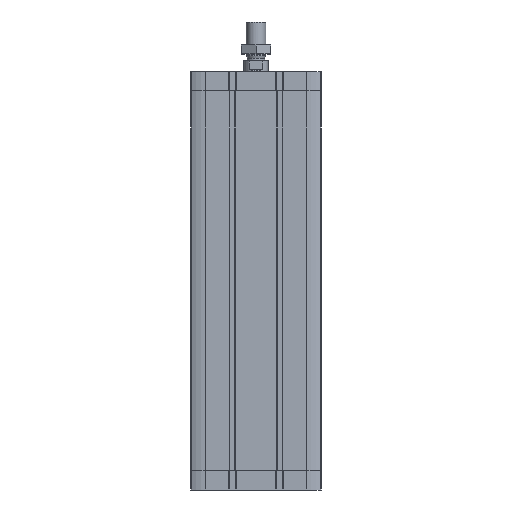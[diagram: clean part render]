
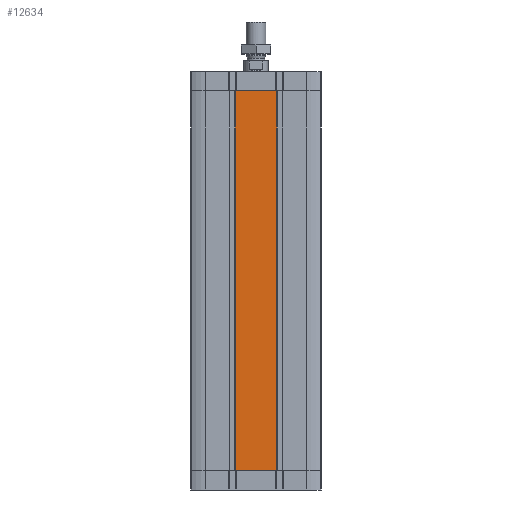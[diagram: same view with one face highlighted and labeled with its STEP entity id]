
A CAD part, front view. The second image highlights one B-rep face of the part: STEP entity #12634.
In plain terms, the highlighted planar face has unit normal (0, -1, 0).
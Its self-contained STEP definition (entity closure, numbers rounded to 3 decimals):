
#28 = DIRECTION ( 'NONE',  ( 1., 0., 0. ) ) ;
#89 = CARTESIAN_POINT ( 'NONE',  ( -67., -67., -411. ) ) ;
#270 = LINE ( 'NONE', #89, #12477 ) ;
#917 = CARTESIAN_POINT ( 'NONE',  ( 21.3, -67., -411. ) ) ;
#1079 = LINE ( 'NONE', #14929, #2745 ) ;
#1700 = ORIENTED_EDGE ( 'NONE', *, *, #9967, .F. ) ;
#1768 = CARTESIAN_POINT ( 'NONE',  ( -20.687, -67., -20. ) ) ;
#2175 = CARTESIAN_POINT ( 'NONE',  ( -21.3, -67., -411. ) ) ;
#2745 = VECTOR ( 'NONE', #13731, 1000. ) ;
#2828 = CARTESIAN_POINT ( 'NONE',  ( -67., -67., -20. ) ) ;
#3000 = VECTOR ( 'NONE', #16751, 1000. ) ;
#3176 = CARTESIAN_POINT ( 'NONE',  ( 20.687, -67., -411. ) ) ;
#3857 = VERTEX_POINT ( 'NONE', #3176 ) ;
#4173 = VECTOR ( 'NONE', #6390, 1000. ) ;
#4177 = VERTEX_POINT ( 'NONE', #1768 ) ;
#4486 = AXIS2_PLACEMENT_3D ( 'NONE', #15542, #14175, #18109 ) ;
#4556 = ORIENTED_EDGE ( 'NONE', *, *, #17231, .T. ) ;
#4649 = CARTESIAN_POINT ( 'NONE',  ( -67., -67., -20. ) ) ;
#4786 = LINE ( 'NONE', #917, #14741 ) ;
#4801 = VERTEX_POINT ( 'NONE', #14944 ) ;
#4873 = ORIENTED_EDGE ( 'NONE', *, *, #8738, .F. ) ;
#4933 = VERTEX_POINT ( 'NONE', #17972 ) ;
#5474 = EDGE_CURVE ( 'NONE', #17806, #15772, #17299, .T. ) ;
#5606 = LINE ( 'NONE', #2175, #4173 ) ;
#6390 = DIRECTION ( 'NONE',  ( 1., 0., 0. ) ) ;
#6516 = DIRECTION ( 'NONE',  ( 0., 0., 1. ) ) ;
#6936 = PLANE ( 'NONE',  #4486 ) ;
#7297 = CARTESIAN_POINT ( 'NONE',  ( 21.3, -67., -20. ) ) ;
#7648 = VERTEX_POINT ( 'NONE', #17753 ) ;
#7970 = ORIENTED_EDGE ( 'NONE', *, *, #12239, .F. ) ;
#8417 = ORIENTED_EDGE ( 'NONE', *, *, #9666, .T. ) ;
#8586 = LINE ( 'NONE', #12800, #13536 ) ;
#8718 = DIRECTION ( 'NONE',  ( 1., 0., 0. ) ) ;
#8738 = EDGE_CURVE ( 'NONE', #4933, #12915, #1079, .T. ) ;
#9666 = EDGE_CURVE ( 'NONE', #4933, #7648, #270, .T. ) ;
#9823 = ORIENTED_EDGE ( 'NONE', *, *, #17487, .T. ) ;
#9897 = LINE ( 'NONE', #10177, #3000 ) ;
#9967 = EDGE_CURVE ( 'NONE', #12915, #4177, #12743, .T. ) ;
#10177 = CARTESIAN_POINT ( 'NONE',  ( -21.3, -67., -20. ) ) ;
#10387 = ORIENTED_EDGE ( 'NONE', *, *, #11580, .T. ) ;
#10602 = ORIENTED_EDGE ( 'NONE', *, *, #5474, .F. ) ;
#11580 = EDGE_CURVE ( 'NONE', #3857, #4801, #8586, .T. ) ;
#12239 = EDGE_CURVE ( 'NONE', #4177, #17806, #9897, .T. ) ;
#12477 = VECTOR ( 'NONE', #15703, 1000. ) ;
#12634 = ADVANCED_FACE ( 'NONE', ( #13902 ), #6936, .T. ) ;
#12743 = LINE ( 'NONE', #2828, #14541 ) ;
#12800 = CARTESIAN_POINT ( 'NONE',  ( -67., -67., -411. ) ) ;
#12915 = VERTEX_POINT ( 'NONE', #16190 ) ;
#13106 = EDGE_LOOP ( 'NONE', ( #4873, #8417, #4556, #10387, #9823, #10602, #7970, #1700 ) ) ;
#13536 = VECTOR ( 'NONE', #28, 1000. ) ;
#13731 = DIRECTION ( 'NONE',  ( 0., 0., 1. ) ) ;
#13902 = FACE_OUTER_BOUND ( 'NONE', #13106, .T. ) ;
#14175 = DIRECTION ( 'NONE',  ( 0., -1., 0. ) ) ;
#14541 = VECTOR ( 'NONE', #8718, 1000. ) ;
#14741 = VECTOR ( 'NONE', #6516, 1000. ) ;
#14929 = CARTESIAN_POINT ( 'NONE',  ( -21.3, -67., -411. ) ) ;
#14944 = CARTESIAN_POINT ( 'NONE',  ( 21.3, -67., -411. ) ) ;
#15075 = DIRECTION ( 'NONE',  ( 1., 0., 0. ) ) ;
#15297 = VECTOR ( 'NONE', #15075, 1000. ) ;
#15542 = CARTESIAN_POINT ( 'NONE',  ( -67., -67., -411. ) ) ;
#15703 = DIRECTION ( 'NONE',  ( 1., 0., 0. ) ) ;
#15772 = VERTEX_POINT ( 'NONE', #7297 ) ;
#16190 = CARTESIAN_POINT ( 'NONE',  ( -21.3, -67., -20. ) ) ;
#16751 = DIRECTION ( 'NONE',  ( 1., 0., 0. ) ) ;
#17231 = EDGE_CURVE ( 'NONE', #7648, #3857, #5606, .T. ) ;
#17299 = LINE ( 'NONE', #4649, #15297 ) ;
#17471 = CARTESIAN_POINT ( 'NONE',  ( 20.687, -67., -20. ) ) ;
#17487 = EDGE_CURVE ( 'NONE', #4801, #15772, #4786, .T. ) ;
#17753 = CARTESIAN_POINT ( 'NONE',  ( -20.687, -67., -411. ) ) ;
#17806 = VERTEX_POINT ( 'NONE', #17471 ) ;
#17972 = CARTESIAN_POINT ( 'NONE',  ( -21.3, -67., -411. ) ) ;
#18109 = DIRECTION ( 'NONE',  ( 0., 0., -1. ) ) ;
